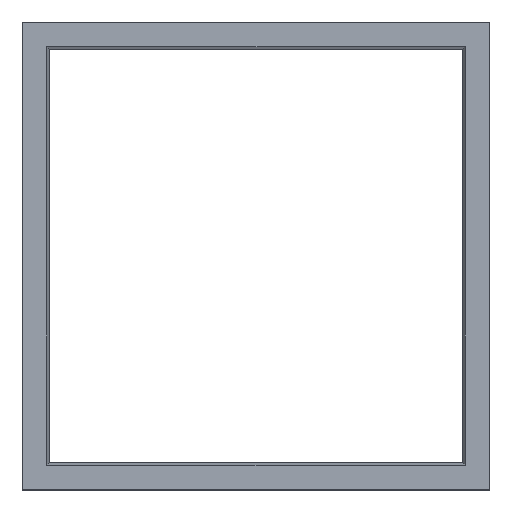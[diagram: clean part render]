
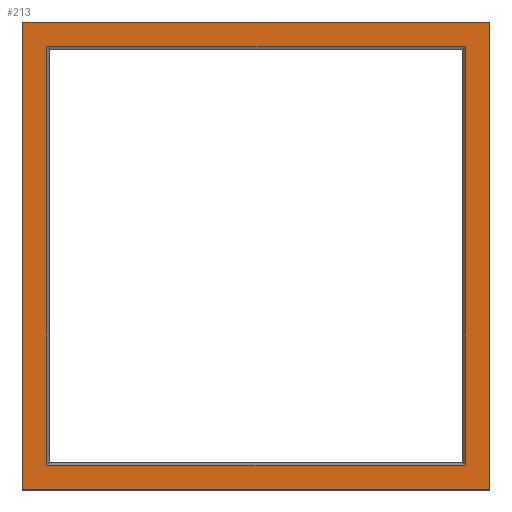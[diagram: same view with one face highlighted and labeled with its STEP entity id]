
A CAD part, top view. The second image highlights one B-rep face of the part: STEP entity #213.
In plain terms, the highlighted planar face has unit normal (0, 0, 1).
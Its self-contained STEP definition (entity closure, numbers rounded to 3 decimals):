
#24 = VERTEX_POINT('',#25);
#25 = CARTESIAN_POINT('',(-17.15,-17.15,4.));
#32 = PLANE('',#33);
#33 = AXIS2_PLACEMENT_3D('',#34,#35,#36);
#34 = CARTESIAN_POINT('',(-17.15,-17.15,0.));
#35 = DIRECTION('',(1.,0.,0.));
#36 = DIRECTION('',(0.,0.,1.));
#44 = PLANE('',#45);
#45 = AXIS2_PLACEMENT_3D('',#46,#47,#48);
#46 = CARTESIAN_POINT('',(-17.15,-17.15,0.));
#47 = DIRECTION('',(0.,1.,0.));
#48 = DIRECTION('',(0.,0.,1.));
#85 = VERTEX_POINT('',#86);
#86 = CARTESIAN_POINT('',(-17.15,17.15,4.));
#100 = PLANE('',#101);
#101 = AXIS2_PLACEMENT_3D('',#102,#103,#104);
#102 = CARTESIAN_POINT('',(-17.15,17.15,0.));
#103 = DIRECTION('',(0.,1.,0.));
#104 = DIRECTION('',(0.,0.,1.));
#112 = EDGE_CURVE('',#24,#85,#113,.T.);
#113 = SURFACE_CURVE('',#114,(#118,#125),.PCURVE_S1.);
#114 = LINE('',#115,#116);
#115 = CARTESIAN_POINT('',(-17.15,-17.15,4.));
#116 = VECTOR('',#117,1.);
#117 = DIRECTION('',(0.,1.,0.));
#118 = PCURVE('',#32,#119);
#119 = DEFINITIONAL_REPRESENTATION('',(#120),#124);
#120 = LINE('',#121,#122);
#121 = CARTESIAN_POINT('',(4.,0.));
#122 = VECTOR('',#123,1.);
#123 = DIRECTION('',(0.,-1.));
#124 = ( GEOMETRIC_REPRESENTATION_CONTEXT(2) 
PARAMETRIC_REPRESENTATION_CONTEXT() REPRESENTATION_CONTEXT('2D SPACE',''
  ) );
#125 = PCURVE('',#126,#131);
#126 = PLANE('',#127);
#127 = AXIS2_PLACEMENT_3D('',#128,#129,#130);
#128 = CARTESIAN_POINT('',(-17.15,-17.15,4.));
#129 = DIRECTION('',(0.,0.,1.));
#130 = DIRECTION('',(1.,0.,0.));
#131 = DEFINITIONAL_REPRESENTATION('',(#132),#136);
#132 = LINE('',#133,#134);
#133 = CARTESIAN_POINT('',(0.,0.));
#134 = VECTOR('',#135,1.);
#135 = DIRECTION('',(0.,1.));
#136 = ( GEOMETRIC_REPRESENTATION_CONTEXT(2) 
PARAMETRIC_REPRESENTATION_CONTEXT() REPRESENTATION_CONTEXT('2D SPACE',''
  ) );
#165 = EDGE_CURVE('',#24,#166,#168,.T.);
#166 = VERTEX_POINT('',#167);
#167 = CARTESIAN_POINT('',(17.15,-17.15,4.));
#168 = SURFACE_CURVE('',#169,(#173,#180),.PCURVE_S1.);
#169 = LINE('',#170,#171);
#170 = CARTESIAN_POINT('',(-17.15,-17.15,4.));
#171 = VECTOR('',#172,1.);
#172 = DIRECTION('',(1.,0.,0.));
#173 = PCURVE('',#44,#174);
#174 = DEFINITIONAL_REPRESENTATION('',(#175),#179);
#175 = LINE('',#176,#177);
#176 = CARTESIAN_POINT('',(4.,0.));
#177 = VECTOR('',#178,1.);
#178 = DIRECTION('',(0.,1.));
#179 = ( GEOMETRIC_REPRESENTATION_CONTEXT(2) 
PARAMETRIC_REPRESENTATION_CONTEXT() REPRESENTATION_CONTEXT('2D SPACE',''
  ) );
#180 = PCURVE('',#126,#181);
#181 = DEFINITIONAL_REPRESENTATION('',(#182),#186);
#182 = LINE('',#183,#184);
#183 = CARTESIAN_POINT('',(0.,0.));
#184 = VECTOR('',#185,1.);
#185 = DIRECTION('',(1.,0.));
#186 = ( GEOMETRIC_REPRESENTATION_CONTEXT(2) 
PARAMETRIC_REPRESENTATION_CONTEXT() REPRESENTATION_CONTEXT('2D SPACE',''
  ) );
#202 = PLANE('',#203);
#203 = AXIS2_PLACEMENT_3D('',#204,#205,#206);
#204 = CARTESIAN_POINT('',(17.15,-17.15,0.));
#205 = DIRECTION('',(1.,0.,0.));
#206 = DIRECTION('',(0.,0.,1.));
#213 = ADVANCED_FACE('',(#214,#262),#126,.T.);
#214 = FACE_BOUND('',#215,.T.);
#215 = EDGE_LOOP('',(#216,#217,#218,#241));
#216 = ORIENTED_EDGE('',*,*,#112,.F.);
#217 = ORIENTED_EDGE('',*,*,#165,.T.);
#218 = ORIENTED_EDGE('',*,*,#219,.T.);
#219 = EDGE_CURVE('',#166,#220,#222,.T.);
#220 = VERTEX_POINT('',#221);
#221 = CARTESIAN_POINT('',(17.15,17.15,4.));
#222 = SURFACE_CURVE('',#223,(#227,#234),.PCURVE_S1.);
#223 = LINE('',#224,#225);
#224 = CARTESIAN_POINT('',(17.15,-17.15,4.));
#225 = VECTOR('',#226,1.);
#226 = DIRECTION('',(0.,1.,0.));
#227 = PCURVE('',#126,#228);
#228 = DEFINITIONAL_REPRESENTATION('',(#229),#233);
#229 = LINE('',#230,#231);
#230 = CARTESIAN_POINT('',(34.3,0.));
#231 = VECTOR('',#232,1.);
#232 = DIRECTION('',(0.,1.));
#233 = ( GEOMETRIC_REPRESENTATION_CONTEXT(2) 
PARAMETRIC_REPRESENTATION_CONTEXT() REPRESENTATION_CONTEXT('2D SPACE',''
  ) );
#234 = PCURVE('',#202,#235);
#235 = DEFINITIONAL_REPRESENTATION('',(#236),#240);
#236 = LINE('',#237,#238);
#237 = CARTESIAN_POINT('',(4.,0.));
#238 = VECTOR('',#239,1.);
#239 = DIRECTION('',(0.,-1.));
#240 = ( GEOMETRIC_REPRESENTATION_CONTEXT(2) 
PARAMETRIC_REPRESENTATION_CONTEXT() REPRESENTATION_CONTEXT('2D SPACE',''
  ) );
#241 = ORIENTED_EDGE('',*,*,#242,.F.);
#242 = EDGE_CURVE('',#85,#220,#243,.T.);
#243 = SURFACE_CURVE('',#244,(#248,#255),.PCURVE_S1.);
#244 = LINE('',#245,#246);
#245 = CARTESIAN_POINT('',(-17.15,17.15,4.));
#246 = VECTOR('',#247,1.);
#247 = DIRECTION('',(1.,0.,0.));
#248 = PCURVE('',#126,#249);
#249 = DEFINITIONAL_REPRESENTATION('',(#250),#254);
#250 = LINE('',#251,#252);
#251 = CARTESIAN_POINT('',(0.,34.3));
#252 = VECTOR('',#253,1.);
#253 = DIRECTION('',(1.,0.));
#254 = ( GEOMETRIC_REPRESENTATION_CONTEXT(2) 
PARAMETRIC_REPRESENTATION_CONTEXT() REPRESENTATION_CONTEXT('2D SPACE',''
  ) );
#255 = PCURVE('',#100,#256);
#256 = DEFINITIONAL_REPRESENTATION('',(#257),#261);
#257 = LINE('',#258,#259);
#258 = CARTESIAN_POINT('',(4.,0.));
#259 = VECTOR('',#260,1.);
#260 = DIRECTION('',(0.,1.));
#261 = ( GEOMETRIC_REPRESENTATION_CONTEXT(2) 
PARAMETRIC_REPRESENTATION_CONTEXT() REPRESENTATION_CONTEXT('2D SPACE',''
  ) );
#262 = FACE_BOUND('',#263,.T.);
#263 = EDGE_LOOP('',(#264,#291,#316,#341));
#264 = ORIENTED_EDGE('',*,*,#265,.T.);
#265 = EDGE_CURVE('',#266,#268,#270,.T.);
#266 = VERTEX_POINT('',#267);
#267 = CARTESIAN_POINT('',(15.33,15.33,4.));
#268 = VERTEX_POINT('',#269);
#269 = CARTESIAN_POINT('',(15.33,-15.33,4.));
#270 = SURFACE_CURVE('',#271,(#274,#280),.PCURVE_S1.);
#271 = B_SPLINE_CURVE_WITH_KNOTS('',1,(#272,#273),.UNSPECIFIED.,.F.,.F.,
  (2,2),(0.,1.),.PIECEWISE_BEZIER_KNOTS.);
#272 = CARTESIAN_POINT('',(15.33,15.33,4.));
#273 = CARTESIAN_POINT('',(15.33,-15.33,4.));
#274 = PCURVE('',#126,#275);
#275 = DEFINITIONAL_REPRESENTATION('',(#276),#279);
#276 = B_SPLINE_CURVE_WITH_KNOTS('',1,(#277,#278),.UNSPECIFIED.,.F.,.F.,
  (2,2),(0.,1.),.PIECEWISE_BEZIER_KNOTS.);
#277 = CARTESIAN_POINT('',(32.48,32.48));
#278 = CARTESIAN_POINT('',(32.48,1.82));
#279 = ( GEOMETRIC_REPRESENTATION_CONTEXT(2) 
PARAMETRIC_REPRESENTATION_CONTEXT() REPRESENTATION_CONTEXT('2D SPACE',''
  ) );
#280 = PCURVE('',#281,#286);
#281 = B_SPLINE_SURFACE_WITH_KNOTS('',1,1,(
    (#282,#283)
    ,(#284,#285
    )),.UNSPECIFIED.,.F.,.F.,.F.,(2,2),(2,2),(0.,30.7),(0.,1.),
  .PIECEWISE_BEZIER_KNOTS.);
#282 = CARTESIAN_POINT('',(15.15,-15.15,3.1));
#283 = CARTESIAN_POINT('',(15.35,-15.35,4.1));
#284 = CARTESIAN_POINT('',(15.15,15.15,3.1));
#285 = CARTESIAN_POINT('',(15.35,15.35,4.1));
#286 = DEFINITIONAL_REPRESENTATION('',(#287),#290);
#287 = B_SPLINE_CURVE_WITH_KNOTS('',1,(#288,#289),.UNSPECIFIED.,.F.,.F.,
  (2,2),(0.,1.),.PIECEWISE_BEZIER_KNOTS.);
#288 = CARTESIAN_POINT('',(30.7,0.9));
#289 = CARTESIAN_POINT('',(0.,0.9));
#290 = ( GEOMETRIC_REPRESENTATION_CONTEXT(2) 
PARAMETRIC_REPRESENTATION_CONTEXT() REPRESENTATION_CONTEXT('2D SPACE',''
  ) );
#291 = ORIENTED_EDGE('',*,*,#292,.T.);
#292 = EDGE_CURVE('',#268,#293,#295,.T.);
#293 = VERTEX_POINT('',#294);
#294 = CARTESIAN_POINT('',(-15.33,-15.33,4.));
#295 = SURFACE_CURVE('',#296,(#299,#305),.PCURVE_S1.);
#296 = B_SPLINE_CURVE_WITH_KNOTS('',1,(#297,#298),.UNSPECIFIED.,.F.,.F.,
  (2,2),(0.,1.),.PIECEWISE_BEZIER_KNOTS.);
#297 = CARTESIAN_POINT('',(15.33,-15.33,4.));
#298 = CARTESIAN_POINT('',(-15.33,-15.33,4.));
#299 = PCURVE('',#126,#300);
#300 = DEFINITIONAL_REPRESENTATION('',(#301),#304);
#301 = B_SPLINE_CURVE_WITH_KNOTS('',1,(#302,#303),.UNSPECIFIED.,.F.,.F.,
  (2,2),(0.,1.),.PIECEWISE_BEZIER_KNOTS.);
#302 = CARTESIAN_POINT('',(32.48,1.82));
#303 = CARTESIAN_POINT('',(1.82,1.82));
#304 = ( GEOMETRIC_REPRESENTATION_CONTEXT(2) 
PARAMETRIC_REPRESENTATION_CONTEXT() REPRESENTATION_CONTEXT('2D SPACE',''
  ) );
#305 = PCURVE('',#306,#311);
#306 = B_SPLINE_SURFACE_WITH_KNOTS('',1,1,(
    (#307,#308)
    ,(#309,#310
    )),.UNSPECIFIED.,.F.,.F.,.F.,(2,2),(2,2),(0.,30.7),(0.,1.),
  .PIECEWISE_BEZIER_KNOTS.);
#307 = CARTESIAN_POINT('',(-15.15,-15.15,3.1));
#308 = CARTESIAN_POINT('',(-15.35,-15.35,4.1));
#309 = CARTESIAN_POINT('',(15.15,-15.15,3.1));
#310 = CARTESIAN_POINT('',(15.35,-15.35,4.1));
#311 = DEFINITIONAL_REPRESENTATION('',(#312),#315);
#312 = B_SPLINE_CURVE_WITH_KNOTS('',1,(#313,#314),.UNSPECIFIED.,.F.,.F.,
  (2,2),(0.,1.),.PIECEWISE_BEZIER_KNOTS.);
#313 = CARTESIAN_POINT('',(30.7,0.9));
#314 = CARTESIAN_POINT('',(0.,0.9));
#315 = ( GEOMETRIC_REPRESENTATION_CONTEXT(2) 
PARAMETRIC_REPRESENTATION_CONTEXT() REPRESENTATION_CONTEXT('2D SPACE',''
  ) );
#316 = ORIENTED_EDGE('',*,*,#317,.T.);
#317 = EDGE_CURVE('',#293,#318,#320,.T.);
#318 = VERTEX_POINT('',#319);
#319 = CARTESIAN_POINT('',(-15.33,15.33,4.));
#320 = SURFACE_CURVE('',#321,(#324,#330),.PCURVE_S1.);
#321 = B_SPLINE_CURVE_WITH_KNOTS('',1,(#322,#323),.UNSPECIFIED.,.F.,.F.,
  (2,2),(0.,1.),.PIECEWISE_BEZIER_KNOTS.);
#322 = CARTESIAN_POINT('',(-15.33,-15.33,4.));
#323 = CARTESIAN_POINT('',(-15.33,15.33,4.));
#324 = PCURVE('',#126,#325);
#325 = DEFINITIONAL_REPRESENTATION('',(#326),#329);
#326 = B_SPLINE_CURVE_WITH_KNOTS('',1,(#327,#328),.UNSPECIFIED.,.F.,.F.,
  (2,2),(0.,1.),.PIECEWISE_BEZIER_KNOTS.);
#327 = CARTESIAN_POINT('',(1.82,1.82));
#328 = CARTESIAN_POINT('',(1.82,32.48));
#329 = ( GEOMETRIC_REPRESENTATION_CONTEXT(2) 
PARAMETRIC_REPRESENTATION_CONTEXT() REPRESENTATION_CONTEXT('2D SPACE',''
  ) );
#330 = PCURVE('',#331,#336);
#331 = B_SPLINE_SURFACE_WITH_KNOTS('',1,1,(
    (#332,#333)
    ,(#334,#335
    )),.UNSPECIFIED.,.F.,.F.,.F.,(2,2),(2,2),(0.,30.7),(0.,1.),
  .PIECEWISE_BEZIER_KNOTS.);
#332 = CARTESIAN_POINT('',(-15.15,15.15,3.1));
#333 = CARTESIAN_POINT('',(-15.35,15.35,4.1));
#334 = CARTESIAN_POINT('',(-15.15,-15.15,3.1));
#335 = CARTESIAN_POINT('',(-15.35,-15.35,4.1));
#336 = DEFINITIONAL_REPRESENTATION('',(#337),#340);
#337 = B_SPLINE_CURVE_WITH_KNOTS('',1,(#338,#339),.UNSPECIFIED.,.F.,.F.,
  (2,2),(0.,1.),.PIECEWISE_BEZIER_KNOTS.);
#338 = CARTESIAN_POINT('',(30.7,0.9));
#339 = CARTESIAN_POINT('',(0.,0.9));
#340 = ( GEOMETRIC_REPRESENTATION_CONTEXT(2) 
PARAMETRIC_REPRESENTATION_CONTEXT() REPRESENTATION_CONTEXT('2D SPACE',''
  ) );
#341 = ORIENTED_EDGE('',*,*,#342,.T.);
#342 = EDGE_CURVE('',#318,#266,#343,.T.);
#343 = SURFACE_CURVE('',#344,(#347,#353),.PCURVE_S1.);
#344 = B_SPLINE_CURVE_WITH_KNOTS('',1,(#345,#346),.UNSPECIFIED.,.F.,.F.,
  (2,2),(0.,1.),.PIECEWISE_BEZIER_KNOTS.);
#345 = CARTESIAN_POINT('',(-15.33,15.33,4.));
#346 = CARTESIAN_POINT('',(15.33,15.33,4.));
#347 = PCURVE('',#126,#348);
#348 = DEFINITIONAL_REPRESENTATION('',(#349),#352);
#349 = B_SPLINE_CURVE_WITH_KNOTS('',1,(#350,#351),.UNSPECIFIED.,.F.,.F.,
  (2,2),(0.,1.),.PIECEWISE_BEZIER_KNOTS.);
#350 = CARTESIAN_POINT('',(1.82,32.48));
#351 = CARTESIAN_POINT('',(32.48,32.48));
#352 = ( GEOMETRIC_REPRESENTATION_CONTEXT(2) 
PARAMETRIC_REPRESENTATION_CONTEXT() REPRESENTATION_CONTEXT('2D SPACE',''
  ) );
#353 = PCURVE('',#354,#359);
#354 = B_SPLINE_SURFACE_WITH_KNOTS('',1,1,(
    (#355,#356)
    ,(#357,#358
    )),.UNSPECIFIED.,.F.,.F.,.F.,(2,2),(2,2),(0.,30.7),(0.,1.),
  .PIECEWISE_BEZIER_KNOTS.);
#355 = CARTESIAN_POINT('',(15.15,15.15,3.1));
#356 = CARTESIAN_POINT('',(15.35,15.35,4.1));
#357 = CARTESIAN_POINT('',(-15.15,15.15,3.1));
#358 = CARTESIAN_POINT('',(-15.35,15.35,4.1));
#359 = DEFINITIONAL_REPRESENTATION('',(#360),#363);
#360 = B_SPLINE_CURVE_WITH_KNOTS('',1,(#361,#362),.UNSPECIFIED.,.F.,.F.,
  (2,2),(0.,1.),.PIECEWISE_BEZIER_KNOTS.);
#361 = CARTESIAN_POINT('',(30.7,0.9));
#362 = CARTESIAN_POINT('',(0.,0.9));
#363 = ( GEOMETRIC_REPRESENTATION_CONTEXT(2) 
PARAMETRIC_REPRESENTATION_CONTEXT() REPRESENTATION_CONTEXT('2D SPACE',''
  ) );
